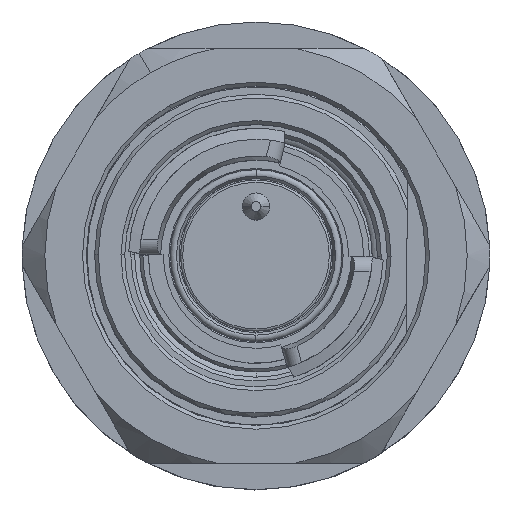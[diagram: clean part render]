
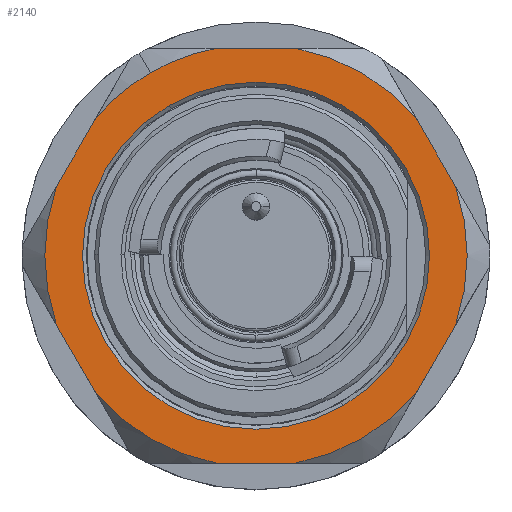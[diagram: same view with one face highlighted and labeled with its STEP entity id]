
A CAD part, top view. The second image highlights one B-rep face of the part: STEP entity #2140.
In plain terms, the highlighted planar face has unit normal (0, 0, 1).
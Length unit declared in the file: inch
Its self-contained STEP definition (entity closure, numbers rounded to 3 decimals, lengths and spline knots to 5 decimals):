
#83 = CARTESIAN_POINT ( 'NONE',  ( 0.3921, 0.22638, -0.30913 ) ) ;
#156 = DIRECTION ( 'NONE',  ( -0.5, -0.866, 0. ) ) ;
#174 = PLANE ( 'NONE',  #6090 ) ;
#740 = ORIENTED_EDGE ( 'NONE', *, *, #14893, .F. ) ;
#917 = DIRECTION ( 'NONE',  ( 0., 0., 1. ) ) ;
#1038 = CARTESIAN_POINT ( 'NONE',  ( 0.52066, -0.18086, -0.30913 ) ) ;
#1039 = AXIS2_PLACEMENT_3D ( 'NONE', #16058, #17193, #9137 ) ;
#1089 = CARTESIAN_POINT ( 'NONE',  ( -0.52066, -0.18086, -0.30913 ) ) ;
#1154 = VERTEX_POINT ( 'NONE', #1089 ) ;
#1322 = CARTESIAN_POINT ( 'NONE',  ( 0.3921, -0.54134, -0.30913 ) ) ;
#1399 = FACE_OUTER_BOUND ( 'NONE', #3357, .T. ) ;
#1472 = CARTESIAN_POINT ( 'NONE',  ( 0., 0., -0.30913 ) ) ;
#1616 = CARTESIAN_POINT ( 'NONE',  ( 0.3921, 0.54134, -0.30913 ) ) ;
#1621 = DIRECTION ( 'NONE',  ( 0.5, -0.866, 0. ) ) ;
#1698 = CARTESIAN_POINT ( 'NONE',  ( 0.22638, -0.3921, -0.30913 ) ) ;
#1775 = VERTEX_POINT ( 'NONE', #14089 ) ;
#1794 = CARTESIAN_POINT ( 'NONE',  ( -0.27559, 0.47734, -0.30913 ) ) ;
#2051 = VERTEX_POINT ( 'NONE', #13703 ) ;
#2140 = ADVANCED_FACE ( 'NONE', ( #8265, #1399 ), #174, .F. ) ;
#2283 = ORIENTED_EDGE ( 'NONE', *, *, #15171, .T. ) ;
#2297 = EDGE_CURVE ( 'NONE', #6254, #5659, #15889, .T. ) ;
#2593 = VERTEX_POINT ( 'NONE', #8968 ) ;
#2756 = CIRCLE ( 'NONE', #3580, 0.55118 ) ;
#2777 = DIRECTION ( 'NONE',  ( 0., 0., 1. ) ) ;
#2785 = EDGE_CURVE ( 'NONE', #1775, #16203, #8066, .T. ) ;
#2923 = VECTOR ( 'NONE', #3842, 39.37008 ) ;
#2924 = VERTEX_POINT ( 'NONE', #7101 ) ;
#3134 = AXIS2_PLACEMENT_3D ( 'NONE', #1472, #2777, #7142 ) ;
#3357 = EDGE_LOOP ( 'NONE', ( #740, #4764, #4315, #14869, #14016, #5851, #7412, #9367, #2283, #6710, #5254, #5703, #9149 ) ) ;
#3369 = LINE ( 'NONE', #12908, #14695 ) ;
#3415 = DIRECTION ( 'NONE',  ( 0.5, -0.866, 0. ) ) ;
#3577 = DIRECTION ( 'NONE',  ( 0., 0., 1. ) ) ;
#3580 = AXIS2_PLACEMENT_3D ( 'NONE', #5590, #10930, #1621 ) ;
#3842 = DIRECTION ( 'NONE',  ( -1., 0., 0. ) ) ;
#3935 = CARTESIAN_POINT ( 'NONE',  ( -0.41696, -0.36047, -0.30913 ) ) ;
#4111 = CARTESIAN_POINT ( 'NONE',  ( -0.41696, 0.36047, -0.30913 ) ) ;
#4237 = VERTEX_POINT ( 'NONE', #15305 ) ;
#4282 = AXIS2_PLACEMENT_3D ( 'NONE', #17015, #3577, #8613 ) ;
#4315 = ORIENTED_EDGE ( 'NONE', *, *, #10968, .F. ) ;
#4396 = CARTESIAN_POINT ( 'NONE',  ( 0., 0., -0.30913 ) ) ;
#4491 = CARTESIAN_POINT ( 'NONE',  ( 0.66486, 0.0689, -0.30913 ) ) ;
#4610 = DIRECTION ( 'NONE',  ( 0.5, -0.866, 0. ) ) ;
#4660 = AXIS2_PLACEMENT_3D ( 'NONE', #14094, #12763, #7359 ) ;
#4764 = ORIENTED_EDGE ( 'NONE', *, *, #10856, .T. ) ;
#4771 = VECTOR ( 'NONE', #6803, 39.37008 ) ;
#5254 = ORIENTED_EDGE ( 'NONE', *, *, #5438, .T. ) ;
#5438 = EDGE_CURVE ( 'NONE', #4237, #1154, #2756, .T. ) ;
#5447 = DIRECTION ( 'NONE',  ( 0., 0., -1. ) ) ;
#5533 = EDGE_CURVE ( 'NONE', #16862, #2924, #6098, .T. ) ;
#5590 = CARTESIAN_POINT ( 'NONE',  ( 0., 0., -0.30913 ) ) ;
#5659 = VERTEX_POINT ( 'NONE', #9082 ) ;
#5703 = ORIENTED_EDGE ( 'NONE', *, *, #17280, .F. ) ;
#5817 = DIRECTION ( 'NONE',  ( 0., 0., 1. ) ) ;
#5851 = ORIENTED_EDGE ( 'NONE', *, *, #6634, .T. ) ;
#6039 = CIRCLE ( 'NONE', #6581, 0.55118 ) ;
#6090 = AXIS2_PLACEMENT_3D ( 'NONE', #83, #5447, #10792 ) ;
#6098 = LINE ( 'NONE', #6178, #14233 ) ;
#6178 = CARTESIAN_POINT ( 'NONE',  ( 0.46881, 0.27067, -0.30913 ) ) ;
#6254 = VERTEX_POINT ( 'NONE', #3935 ) ;
#6581 = AXIS2_PLACEMENT_3D ( 'NONE', #7207, #5817, #12538 ) ;
#6634 = EDGE_CURVE ( 'NONE', #16862, #9472, #12292, .T. ) ;
#6710 = ORIENTED_EDGE ( 'NONE', *, *, #7661, .F. ) ;
#6803 = DIRECTION ( 'NONE',  ( 1., 0., 0. ) ) ;
#7101 = CARTESIAN_POINT ( 'NONE',  ( 0.52066, 0.18086, -0.30913 ) ) ;
#7127 = EDGE_CURVE ( 'NONE', #1775, #9472, #9779, .T. ) ;
#7142 = DIRECTION ( 'NONE',  ( 0.5, -0.866, 0. ) ) ;
#7207 = CARTESIAN_POINT ( 'NONE',  ( 0., 0., -0.30913 ) ) ;
#7216 = DIRECTION ( 'NONE',  ( 0., 0., 1. ) ) ;
#7359 = DIRECTION ( 'NONE',  ( 0.5, -0.866, 0. ) ) ;
#7412 = ORIENTED_EDGE ( 'NONE', *, *, #7127, .F. ) ;
#7469 = CARTESIAN_POINT ( 'NONE',  ( 0.41696, 0.36047, -0.30913 ) ) ;
#7661 = EDGE_CURVE ( 'NONE', #4237, #14824, #10802, .T. ) ;
#8066 = CIRCLE ( 'NONE', #1039, 0.55118 ) ;
#8265 = FACE_BOUND ( 'NONE', #15462, .T. ) ;
#8471 = LINE ( 'NONE', #4491, #13202 ) ;
#8543 = EDGE_CURVE ( 'NONE', #16720, #9649, #8694, .T. ) ;
#8589 = VERTEX_POINT ( 'NONE', #1038 ) ;
#8613 = DIRECTION ( 'NONE',  ( 0.5, -0.866, 0. ) ) ;
#8694 = CIRCLE ( 'NONE', #13441, 0.45276 ) ;
#8949 = AXIS2_PLACEMENT_3D ( 'NONE', #10217, #917, #13515 ) ;
#8968 = CARTESIAN_POINT ( 'NONE',  ( 0.41696, -0.36047, -0.30913 ) ) ;
#9082 = CARTESIAN_POINT ( 'NONE',  ( -0.1037, -0.54134, -0.30913 ) ) ;
#9137 = DIRECTION ( 'NONE',  ( 0.5, -0.866, 0. ) ) ;
#9149 = ORIENTED_EDGE ( 'NONE', *, *, #2297, .T. ) ;
#9367 = ORIENTED_EDGE ( 'NONE', *, *, #2785, .T. ) ;
#9410 = ORIENTED_EDGE ( 'NONE', *, *, #15515, .F. ) ;
#9472 = VERTEX_POINT ( 'NONE', #10739 ) ;
#9487 = LINE ( 'NONE', #1322, #2923 ) ;
#9649 = VERTEX_POINT ( 'NONE', #1698 ) ;
#9779 = LINE ( 'NONE', #1616, #4771 ) ;
#9897 = CARTESIAN_POINT ( 'NONE',  ( 0., 0., -0.30913 ) ) ;
#10113 = DIRECTION ( 'NONE',  ( 0.5, -0.866, 0. ) ) ;
#10217 = CARTESIAN_POINT ( 'NONE',  ( 0., 0., -0.30913 ) ) ;
#10452 = CIRCLE ( 'NONE', #4282, 0.55118 ) ;
#10739 = CARTESIAN_POINT ( 'NONE',  ( 0.1037, 0.54134, -0.30913 ) ) ;
#10792 = DIRECTION ( 'NONE',  ( -0.5, 0.866, 0. ) ) ;
#10802 = LINE ( 'NONE', #13325, #14266 ) ;
#10856 = EDGE_CURVE ( 'NONE', #2051, #2593, #13492, .T. ) ;
#10930 = DIRECTION ( 'NONE',  ( 0., 0., 1. ) ) ;
#10968 = EDGE_CURVE ( 'NONE', #8589, #2593, #8471, .T. ) ;
#11167 = CARTESIAN_POINT ( 'NONE',  ( -0.22638, 0.3921, -0.30913 ) ) ;
#11920 = DIRECTION ( 'NONE',  ( 0.5, 0.866, 0. ) ) ;
#12292 = CIRCLE ( 'NONE', #8949, 0.55118 ) ;
#12538 = DIRECTION ( 'NONE',  ( 0.5, -0.866, 0. ) ) ;
#12657 = ORIENTED_EDGE ( 'NONE', *, *, #8543, .F. ) ;
#12763 = DIRECTION ( 'NONE',  ( 0., 0., 1. ) ) ;
#12908 = CARTESIAN_POINT ( 'NONE',  ( -0.46881, -0.27067, -0.30913 ) ) ;
#13003 = DIRECTION ( 'NONE',  ( -0.5, 0.866, 0. ) ) ;
#13202 = VECTOR ( 'NONE', #156, 39.37008 ) ;
#13325 = CARTESIAN_POINT ( 'NONE',  ( -0.27276, 0.61024, -0.30913 ) ) ;
#13441 = AXIS2_PLACEMENT_3D ( 'NONE', #4396, #7216, #3415 ) ;
#13492 = CIRCLE ( 'NONE', #3134, 0.55118 ) ;
#13515 = DIRECTION ( 'NONE',  ( 0.5, -0.866, 0. ) ) ;
#13693 = EDGE_CURVE ( 'NONE', #8589, #2924, #10452, .T. ) ;
#13703 = CARTESIAN_POINT ( 'NONE',  ( 0.1037, -0.54134, -0.30913 ) ) ;
#14016 = ORIENTED_EDGE ( 'NONE', *, *, #5533, .F. ) ;
#14089 = CARTESIAN_POINT ( 'NONE',  ( -0.1037, 0.54134, -0.30913 ) ) ;
#14094 = CARTESIAN_POINT ( 'NONE',  ( 0., 0., -0.30913 ) ) ;
#14233 = VECTOR ( 'NONE', #10113, 39.37008 ) ;
#14266 = VECTOR ( 'NONE', #11920, 39.37008 ) ;
#14695 = VECTOR ( 'NONE', #13003, 39.37008 ) ;
#14708 = AXIS2_PLACEMENT_3D ( 'NONE', #9897, #15241, #4610 ) ;
#14824 = VERTEX_POINT ( 'NONE', #4111 ) ;
#14869 = ORIENTED_EDGE ( 'NONE', *, *, #13693, .T. ) ;
#14893 = EDGE_CURVE ( 'NONE', #2051, #5659, #9487, .T. ) ;
#15171 = EDGE_CURVE ( 'NONE', #16203, #14824, #6039, .T. ) ;
#15241 = DIRECTION ( 'NONE',  ( 0., 0., 1. ) ) ;
#15305 = CARTESIAN_POINT ( 'NONE',  ( -0.52066, 0.18086, -0.30913 ) ) ;
#15462 = EDGE_LOOP ( 'NONE', ( #9410, #12657 ) ) ;
#15515 = EDGE_CURVE ( 'NONE', #9649, #16720, #16110, .T. ) ;
#15889 = CIRCLE ( 'NONE', #4660, 0.55118 ) ;
#16058 = CARTESIAN_POINT ( 'NONE',  ( 0., 0., -0.30913 ) ) ;
#16110 = CIRCLE ( 'NONE', #14708, 0.45276 ) ;
#16203 = VERTEX_POINT ( 'NONE', #1794 ) ;
#16720 = VERTEX_POINT ( 'NONE', #11167 ) ;
#16862 = VERTEX_POINT ( 'NONE', #7469 ) ;
#17015 = CARTESIAN_POINT ( 'NONE',  ( 0., 0., -0.30913 ) ) ;
#17193 = DIRECTION ( 'NONE',  ( 0., 0., 1. ) ) ;
#17280 = EDGE_CURVE ( 'NONE', #6254, #1154, #3369, .T. ) ;
